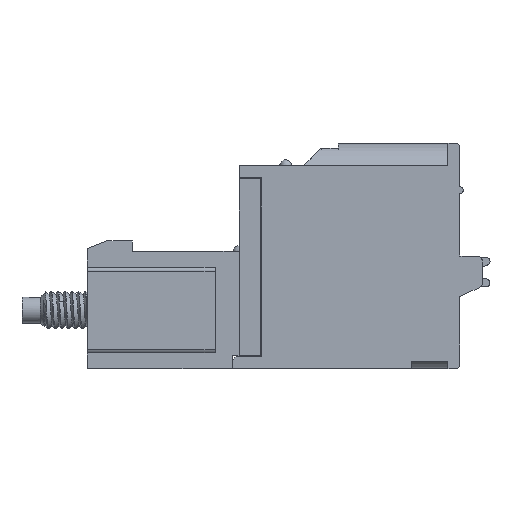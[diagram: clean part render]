
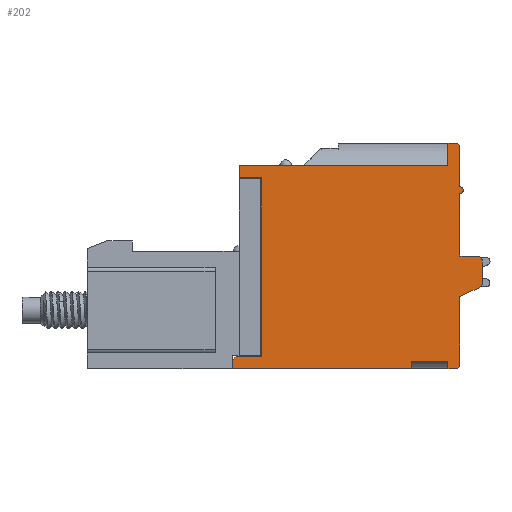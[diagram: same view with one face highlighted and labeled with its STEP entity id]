
A CAD part, left-side view. The second image highlights one B-rep face of the part: STEP entity #202.
In plain terms, the highlighted planar face has unit normal (-1, 0, 0).
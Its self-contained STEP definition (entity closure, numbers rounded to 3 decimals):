
#202=ADVANCED_FACE('',(#15198),#15200,.T.);
#15198=FACE_BOUND('',#15199,.T.);
#15199=EDGE_LOOP('',(#31462,#31463,#31464,#31465,#31466,#31467,#31468,#31469,#31470,
#31471,#31472,#31473,#31474,#31475,#31476,#31477,#31478,#31479,#31480,#31481,#31482,
#31483,#31484,#31485,#31486));
#15200=PLANE('',#15201);
#15201=AXIS2_PLACEMENT_3D('',#15202,#15203,#15204);
#15202=CARTESIAN_POINT('',(-15.54,3.14,-7.5));
#15203=DIRECTION('',(-1.,0.,0.));
#15204=DIRECTION('',(0.,-1.,0.));
#31462=ORIENTED_EDGE('',*,*,#41272,.T.);
#31463=ORIENTED_EDGE('',*,*,#41273,.T.);
#31464=ORIENTED_EDGE('',*,*,#41115,.T.);
#31465=ORIENTED_EDGE('',*,*,#41270,.T.);
#31466=ORIENTED_EDGE('',*,*,#41274,.T.);
#31467=ORIENTED_EDGE('',*,*,#41275,.T.);
#31468=ORIENTED_EDGE('',*,*,#41276,.T.);
#31469=ORIENTED_EDGE('',*,*,#41277,.T.);
#31470=ORIENTED_EDGE('',*,*,#41278,.T.);
#31471=ORIENTED_EDGE('',*,*,#41279,.T.);
#31472=ORIENTED_EDGE('',*,*,#41280,.T.);
#31473=ORIENTED_EDGE('',*,*,#41281,.T.);
#31474=ORIENTED_EDGE('',*,*,#41282,.T.);
#31475=ORIENTED_EDGE('',*,*,#41283,.T.);
#31476=ORIENTED_EDGE('',*,*,#41284,.T.);
#31477=ORIENTED_EDGE('',*,*,#41285,.T.);
#31478=ORIENTED_EDGE('',*,*,#41286,.T.);
#31479=ORIENTED_EDGE('',*,*,#41287,.T.);
#31480=ORIENTED_EDGE('',*,*,#41288,.T.);
#31481=ORIENTED_EDGE('',*,*,#41289,.T.);
#31482=ORIENTED_EDGE('',*,*,#41290,.T.);
#31483=ORIENTED_EDGE('',*,*,#41291,.T.);
#31484=ORIENTED_EDGE('',*,*,#41292,.T.);
#31485=ORIENTED_EDGE('',*,*,#41293,.T.);
#31486=ORIENTED_EDGE('',*,*,#41207,.T.);
#41115=EDGE_CURVE('',#46047,#46045,#46048,.T.);
#41207=EDGE_CURVE('',#46229,#46227,#46230,.T.);
#41270=EDGE_CURVE('',#46045,#46349,#46351,.T.);
#41272=EDGE_CURVE('',#46227,#46353,#46354,.T.);
#41273=EDGE_CURVE('',#46353,#46047,#46355,.T.);
#41274=EDGE_CURVE('',#46349,#46356,#46357,.T.);
#41275=EDGE_CURVE('',#46356,#46358,#46359,.T.);
#41276=EDGE_CURVE('',#46358,#46360,#46361,.T.);
#41277=EDGE_CURVE('',#46360,#46362,#46363,.T.);
#41278=EDGE_CURVE('',#46362,#46364,#46365,.T.);
#41279=EDGE_CURVE('',#46364,#46366,#46367,.T.);
#41280=EDGE_CURVE('',#46366,#46368,#46369,.T.);
#41281=EDGE_CURVE('',#46368,#46370,#46371,.T.);
#41282=EDGE_CURVE('',#46370,#46372,#46373,.T.);
#41283=EDGE_CURVE('',#46372,#46374,#46375,.T.);
#41284=EDGE_CURVE('',#46374,#46376,#46377,.T.);
#41285=EDGE_CURVE('',#46376,#46378,#46379,.T.);
#41286=EDGE_CURVE('',#46378,#46380,#46381,.T.);
#41287=EDGE_CURVE('',#46380,#46382,#46383,.T.);
#41288=EDGE_CURVE('',#46382,#46384,#46385,.T.);
#41289=EDGE_CURVE('',#46384,#46386,#46387,.T.);
#41290=EDGE_CURVE('',#46386,#46388,#46389,.T.);
#41291=EDGE_CURVE('',#46388,#46390,#46391,.T.);
#41292=EDGE_CURVE('',#46390,#46392,#46393,.T.);
#41293=EDGE_CURVE('',#46392,#46229,#46394,.T.);
#46045=VERTEX_POINT('',#53926);
#46047=VERTEX_POINT('',#53930);
#46048=LINE('',#53931,#53932);
#46227=VERTEX_POINT('',#54292);
#46229=VERTEX_POINT('',#54296);
#46230=LINE('',#54297,#54298);
#46349=VERTEX_POINT('',#54546);
#46351=LINE('',#54550,#54551);
#46353=VERTEX_POINT('',#54557);
#46354=LINE('',#54558,#54559);
#46355=LINE('',#54561,#54562);
#46356=VERTEX_POINT('',#54564);
#46357=LINE('',#54565,#54566);
#46358=VERTEX_POINT('',#54568);
#46359=LINE('',#54569,#54570);
#46360=VERTEX_POINT('',#54572);
#46361=LINE('',#54573,#54574);
#46362=VERTEX_POINT('',#54576);
#46363=CIRCLE('',#54577,0.3);
#46364=VERTEX_POINT('',#54581);
#46365=LINE('',#54582,#54583);
#46366=VERTEX_POINT('',#54585);
#46367=LINE('',#54586,#54587);
#46368=VERTEX_POINT('',#54589);
#46369=CIRCLE('',#54590,0.4);
#46370=VERTEX_POINT('',#54594);
#46371=LINE('',#54595,#54596);
#46372=VERTEX_POINT('',#54598);
#46373=CIRCLE('',#54599,0.4);
#46374=VERTEX_POINT('',#54603);
#46375=LINE('',#54604,#54605);
#46376=VERTEX_POINT('',#54607);
#46377=LINE('',#54608,#54609);
#46378=VERTEX_POINT('',#54611);
#46379=CIRCLE('',#54612,0.225);
#46380=VERTEX_POINT('',#54616);
#46381=LINE('',#54617,#54618);
#46382=VERTEX_POINT('',#54620);
#46383=CIRCLE('',#54621,0.3);
#46384=VERTEX_POINT('',#54625);
#46385=LINE('',#54626,#54627);
#46386=VERTEX_POINT('',#54629);
#46387=LINE('',#54630,#54631);
#46388=VERTEX_POINT('',#54633);
#46389=LINE('',#54634,#54635);
#46390=VERTEX_POINT('',#54637);
#46391=LINE('',#54638,#54639);
#46392=VERTEX_POINT('',#54641);
#46393=LINE('',#54642,#54643);
#46394=LINE('',#54645,#54646);
#53926=CARTESIAN_POINT('',(-15.54,7.84,-15.));
#53930=CARTESIAN_POINT('',(-15.54,19.79,-15.));
#53931=CARTESIAN_POINT('',(-15.54,19.79,-15.));
#53932=VECTOR('',#53933,1.);
#53933=DIRECTION('',(0.,-1.,0.));
#54292=CARTESIAN_POINT('',(-15.54,19.54,-14.2));
#54296=CARTESIAN_POINT('',(-15.54,17.84,-14.2));
#54297=CARTESIAN_POINT('',(-15.54,17.84,-14.2));
#54298=VECTOR('',#54299,1.);
#54299=DIRECTION('',(0.,1.,0.));
#54546=CARTESIAN_POINT('',(-15.54,7.84,-14.5));
#54550=CARTESIAN_POINT('',(-15.54,7.84,-15.));
#54551=VECTOR('',#54552,1.);
#54552=DIRECTION('',(0.,0.,1.));
#54557=CARTESIAN_POINT('',(-15.54,19.79,-14.45));
#54558=CARTESIAN_POINT('',(-15.54,19.54,-14.2));
#54559=VECTOR('',#54560,1.);
#54560=DIRECTION('',(0.,0.707,-0.707));
#54561=CARTESIAN_POINT('',(-15.54,19.79,-14.45));
#54562=VECTOR('',#54563,1.);
#54563=DIRECTION('',(0.,0.,-1.));
#54564=CARTESIAN_POINT('',(-15.54,5.44,-14.5));
#54565=CARTESIAN_POINT('',(-15.54,7.84,-14.5));
#54566=VECTOR('',#54567,1.);
#54567=DIRECTION('',(0.,-1.,0.));
#54568=CARTESIAN_POINT('',(-15.54,5.44,-15.));
#54569=CARTESIAN_POINT('',(-15.54,5.44,-14.5));
#54570=VECTOR('',#54571,1.);
#54571=DIRECTION('',(0.,0.,-1.));
#54572=CARTESIAN_POINT('',(-15.54,4.94,-15.));
#54573=CARTESIAN_POINT('',(-15.54,5.44,-15.));
#54574=VECTOR('',#54575,1.);
#54575=DIRECTION('',(0.,-1.,0.));
#54576=CARTESIAN_POINT('',(-15.54,4.64,-14.7));
#54577=AXIS2_PLACEMENT_3D('',#54578,#54579,#54580);
#54578=CARTESIAN_POINT('',(-15.54,4.94,-14.7));
#54579=DIRECTION('',(-1.,0.,0.));
#54580=DIRECTION('',(0.,0.,-1.));
#54581=CARTESIAN_POINT('',(-15.54,4.64,-10.2));
#54582=CARTESIAN_POINT('',(-15.54,4.64,-14.7));
#54583=VECTOR('',#54584,1.);
#54584=DIRECTION('',(0.,0.,1.));
#54585=CARTESIAN_POINT('',(-15.54,3.371,-9.608));
#54586=CARTESIAN_POINT('',(-15.54,4.64,-10.2));
#54587=VECTOR('',#54588,1.);
#54588=DIRECTION('',(0.,-0.906,0.423));
#54589=CARTESIAN_POINT('',(-15.54,3.14,-9.245));
#54590=AXIS2_PLACEMENT_3D('',#54591,#54592,#54593);
#54591=CARTESIAN_POINT('',(-15.54,3.54,-9.245));
#54592=DIRECTION('',(-1.,0.,0.));
#54593=DIRECTION('',(0.,-0.423,-0.906));
#54594=CARTESIAN_POINT('',(-15.54,3.14,-7.9));
#54595=CARTESIAN_POINT('',(-15.54,3.14,-9.245));
#54596=VECTOR('',#54597,1.);
#54597=DIRECTION('',(0.,0.,1.));
#54598=CARTESIAN_POINT('',(-15.54,3.54,-7.5));
#54599=AXIS2_PLACEMENT_3D('',#54600,#54601,#54602);
#54600=CARTESIAN_POINT('',(-15.54,3.54,-7.9));
#54601=DIRECTION('',(-1.,0.,0.));
#54602=DIRECTION('',(0.,-1.,0.));
#54603=CARTESIAN_POINT('',(-15.54,4.64,-7.5));
#54604=CARTESIAN_POINT('',(-15.54,3.54,-7.5));
#54605=VECTOR('',#54606,1.);
#54606=DIRECTION('',(0.,1.,0.));
#54607=CARTESIAN_POINT('',(-15.54,4.64,-3.35));
#54608=CARTESIAN_POINT('',(-15.54,4.64,-7.5));
#54609=VECTOR('',#54610,1.);
#54610=DIRECTION('',(0.,0.,1.));
#54611=CARTESIAN_POINT('',(-15.54,4.64,-2.9));
#54612=AXIS2_PLACEMENT_3D('',#54613,#54614,#54615);
#54613=CARTESIAN_POINT('',(-15.54,4.64,-3.125));
#54614=DIRECTION('',(-1.,0.,0.));
#54615=DIRECTION('',(0.,0.,-1.));
#54616=CARTESIAN_POINT('',(-15.54,4.64,-0.3));
#54617=CARTESIAN_POINT('',(-15.54,4.64,-2.9));
#54618=VECTOR('',#54619,1.);
#54619=DIRECTION('',(0.,0.,1.));
#54620=CARTESIAN_POINT('',(-15.54,4.94,0.));
#54621=AXIS2_PLACEMENT_3D('',#54622,#54623,#54624);
#54622=CARTESIAN_POINT('',(-15.54,4.94,-0.3));
#54623=DIRECTION('',(-1.,0.,0.));
#54624=DIRECTION('',(0.,-1.,0.));
#54625=CARTESIAN_POINT('',(-15.54,5.44,0.));
#54626=CARTESIAN_POINT('',(-15.54,4.94,0.));
#54627=VECTOR('',#54628,1.);
#54628=DIRECTION('',(0.,1.,0.));
#54629=CARTESIAN_POINT('',(-15.54,5.44,-1.5));
#54630=CARTESIAN_POINT('',(-15.54,5.44,0.));
#54631=VECTOR('',#54632,1.);
#54632=DIRECTION('',(0.,0.,-1.));
#54633=CARTESIAN_POINT('',(-15.54,19.34,-1.5));
#54634=CARTESIAN_POINT('',(-15.54,5.44,-1.5));
#54635=VECTOR('',#54636,1.);
#54636=DIRECTION('',(0.,1.,0.));
#54637=CARTESIAN_POINT('',(-15.54,19.34,-2.3));
#54638=CARTESIAN_POINT('',(-15.54,19.34,-1.5));
#54639=VECTOR('',#54640,1.);
#54640=DIRECTION('',(0.,0.,-1.));
#54641=CARTESIAN_POINT('',(-15.54,17.84,-2.3));
#54642=CARTESIAN_POINT('',(-15.54,19.34,-2.3));
#54643=VECTOR('',#54644,1.);
#54644=DIRECTION('',(0.,-1.,0.));
#54645=CARTESIAN_POINT('',(-15.54,17.84,-2.3));
#54646=VECTOR('',#54647,1.);
#54647=DIRECTION('',(0.,0.,-1.));
